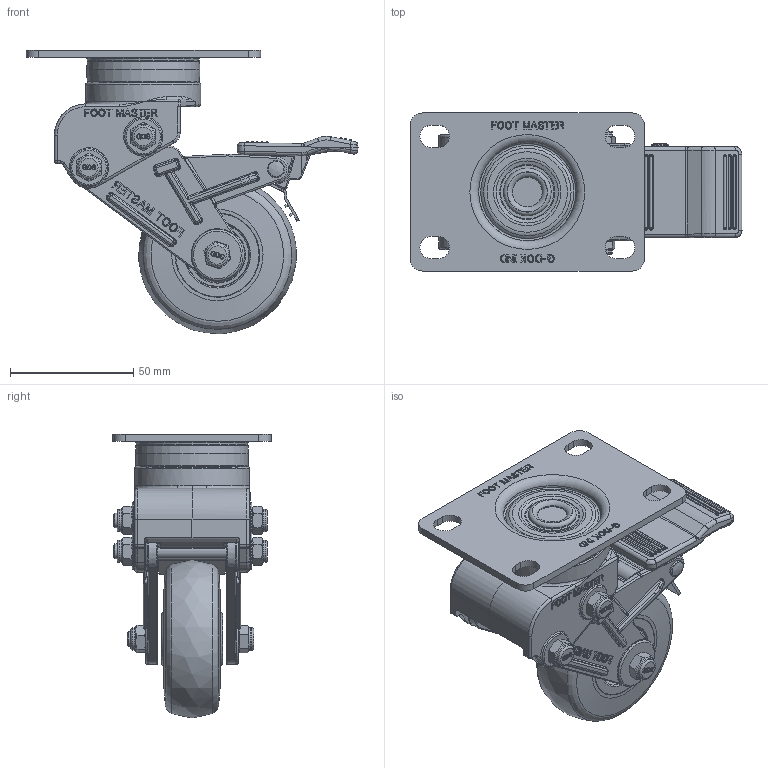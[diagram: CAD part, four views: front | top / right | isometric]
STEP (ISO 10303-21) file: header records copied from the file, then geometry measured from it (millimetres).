
FILE_DESCRIPTION(/* description */ (''),/* implementation_level */ '2;1');
FILE_NAME(/* name */ 'C:\Users\admin\Desktop\JYS\개발품\상세설계_20220328\홈페이지용 도면\GDS-65-BSF-EUS-PUS.stp',/* time_stamp */ '2023-03-08T15:54:52+09:00',/* author */ ('admin'),/* organization */ (''),/* preprocessor_version */ 'ST-DEVELOPER v18.1',/* originating_system */ 'Autodesk Inventor 2021',/* authorisation */ '');
FILE_SCHEMA (('AUTOMOTIVE_DESIGN { 1 0 10303 214 3 1 1 }'));
Products named in the file (1): GDS-65_BSF_(US)_REV01_Shrinkwrap_1
Bounding box: 134.46 x 64 x 114.97 mm (x, y, z)
Volume: 175287.9 mm3; surface area: 67923.9 mm2
Topology: 1 solids, 1 shells, 2691 faces, 6930 edges, 4344 vertices
Faces by surface type: plane 932, bspline 844, cylinder 543, cone 164, torus 156, sphere 52
Full cylindrical faces by diameter (mm): 2 x1, 4 x3, 6 x5, 7 x2, 8.8 x3, 9 x6, 12 x1, 17.216 x2, 18 x1, 19.3 x1, 20 x2, 22 x2, 22.784 x2, 30 x1, 42.5 x1, 46.5 x1
Entity records: 94139 total; most frequent: CARTESIAN_POINT 30441, ORIENTED_EDGE 13780, DIRECTION 10924, EDGE_CURVE 6890, VERTEX_POINT 4344, AXIS2_PLACEMENT_3D 3846, LINE 3232, VECTOR 3232
